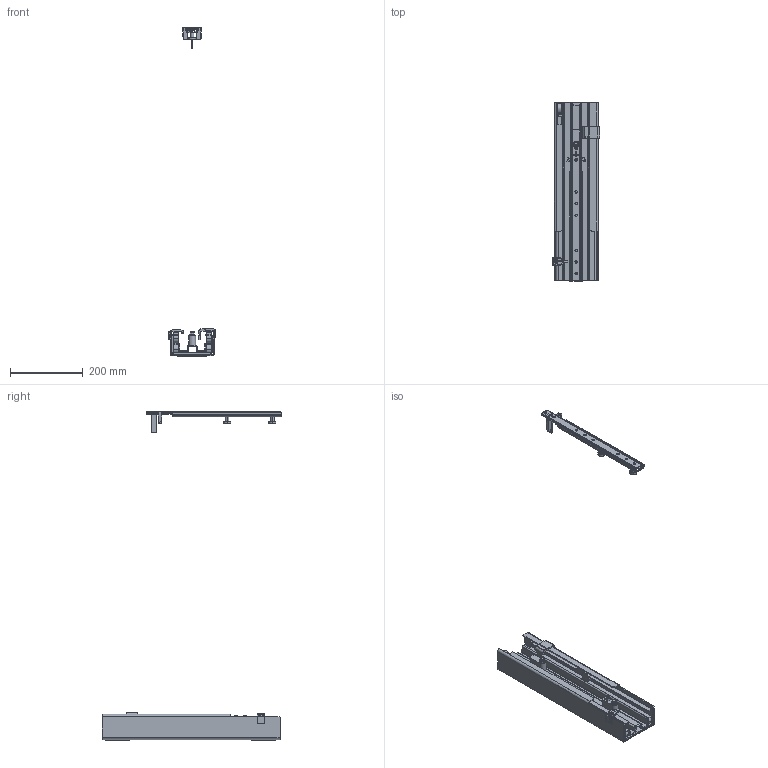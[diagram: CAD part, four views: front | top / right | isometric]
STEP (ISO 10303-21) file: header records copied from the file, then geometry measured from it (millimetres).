
FILE_DESCRIPTION(('STEP AP242'),'1');
FILE_NAME('OPO_53.150.56_volu_schn_3d.stp','2026-01-27T03:46:29',(' '),(' '),'Spatial InterOp 3D',' ',' ');
FILE_SCHEMA(('AP242_MANAGED_MODEL_BASED_3D_ENGINEERING_MIM_LF {1 0 10303 442 1 1 4}'));
Length unit declared in the file: millimetre
Products named in the file (1): 1
Bounding box: 130 x 490.75 x 900.1 mm (x, y, z)
Volume: 1064260.4 mm3; surface area: 720145.2 mm2
Topology: 12 solids, 12 shells, 802 faces, 4785 edges, 6502 vertices
Faces by surface type: plane 480, cylinder 283, revolution 19, bspline 11, cone 6, torus 3
Entity records: 66230 total; most frequent: CARTESIAN_POINT 10846, DIRECTION 6977, ORIENTED_EDGE 4548, LINE 3664, VECTOR 3664, STYLED_ITEM 3313, PRESENTATION_STYLE_ASSIGNMENT 3313, COLOUR_RGB 3313
